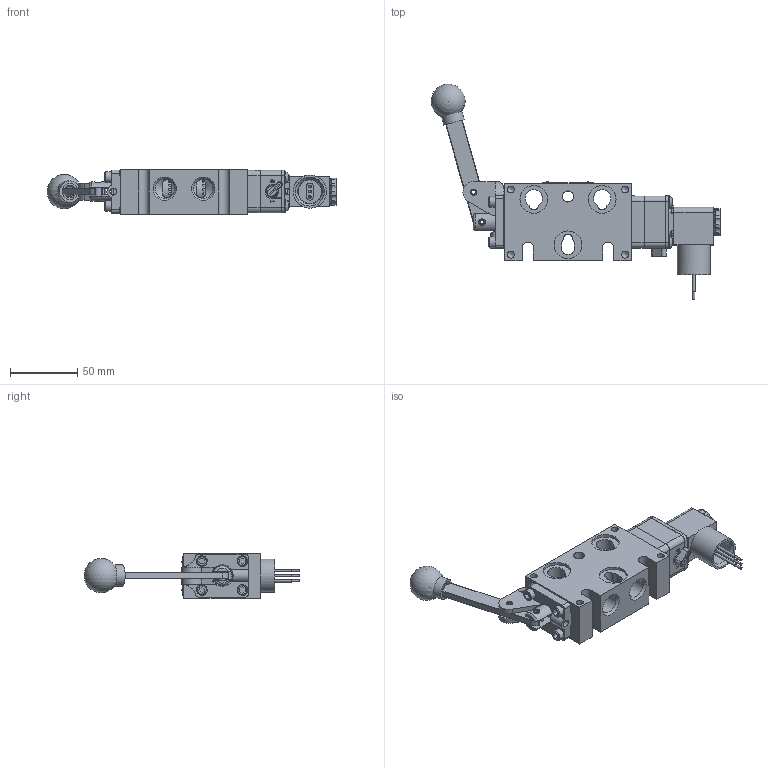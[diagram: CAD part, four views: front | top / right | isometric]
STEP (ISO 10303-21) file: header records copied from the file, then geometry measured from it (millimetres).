
FILE_DESCRIPTION(/* description */ (''),/* implementation_level */ '2;1');
FILE_NAME(/* name */ 'EBSAH3JOZ.stp',/* time_stamp */ '2026-09-18T08:06:38-04:00',/* author */ ('rmckenna'),/* organization */ (''),/* preprocessor_version */ 'ST-DEVELOPER v20.2',/* originating_system */ 'Autodesk Inventor 2027',/* authorisation */ '');
FILE_SCHEMA (('AUTOMOTIVE_DESIGN { 1 0 10303 214 3 1 1 }'));
Products named in the file (1): Part2
Bounding box: 215.35 x 160.39 x 33.32 mm (x, y, z)
Volume: 214506.2 mm3; surface area: 87587.1 mm2
Topology: 1 solids, 25 shells, 1606 faces, 3929 edges, 2495 vertices
Faces by surface type: plane 666, cylinder 473, cone 258, torus 157, bspline 45, sphere 7
Full cylindrical faces by diameter (mm): 1.3 x1, 1.397 x1, 1.5 x2, 1.524 x3, 2.032 x7, 2.07 x2, 2.261 x2, 2.35 x4, 2.5 x1, 2.778 x2, 2.8 x1, 3 x4, 3.048 x2, 3.175 x1, 3.4 x1, 3.683 x10, 4.191 x2, 4.305 x1, 4.75 x2, 4.763 x2, 4.826 x8, 4.978 x4, 5.055 x1, 5.15 x4, 5.156 x12, 5.283 x1, 5.5 x1, 6.65 x1, 6.9 x1, 7.188 x1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
Entity records: 52490 total; most frequent: CARTESIAN_POINT 12369, DIRECTION 8240, ORIENTED_EDGE 7826, EDGE_CURVE 3913, AXIS2_PLACEMENT_3D 3197, VERTEX_POINT 2495, LINE 1846, VECTOR 1846
